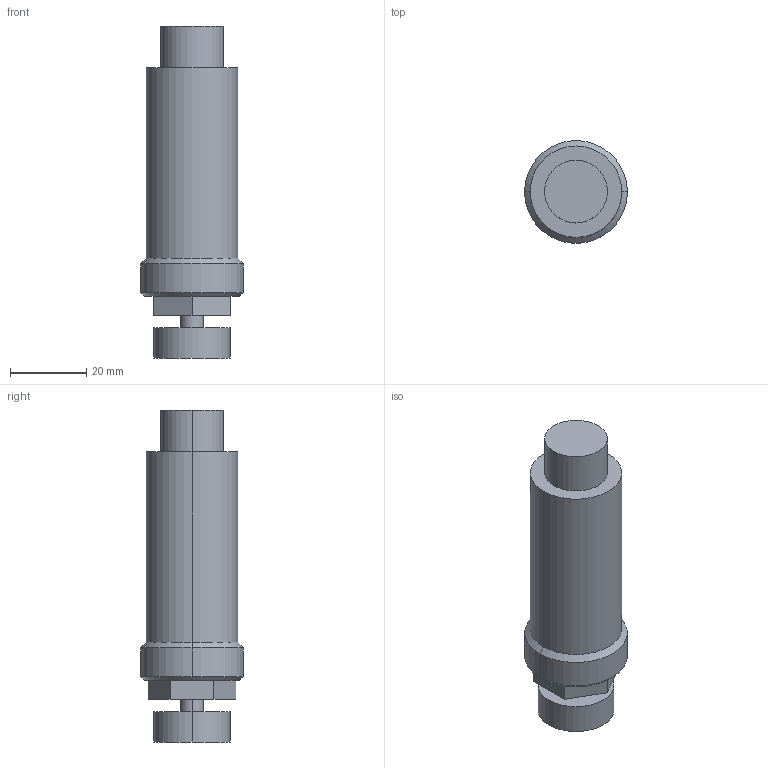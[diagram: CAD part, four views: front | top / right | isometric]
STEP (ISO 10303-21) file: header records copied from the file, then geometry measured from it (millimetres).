
FILE_DESCRIPTION (( 'STEP AP203' ), '1' );
FILE_NAME ('DIYAWEICHI.STEP', '2023-04-06T07:05:09', ( '' ), ( '' ), 'SwSTEP 2.0', 'SolidWorks 2016', '' );
FILE_SCHEMA (( 'CONFIG_CONTROL_DESIGN' ));
Length unit declared in the file: millimetre
Products named in the file (1): DIYAWEICHI
Bounding box: 27 x 27 x 87.2 mm (x, y, z)
Volume: 34899.6 mm3; surface area: 7686.2 mm2
Topology: 1 solids, 1 shells, 26 faces, 54 edges, 34 vertices
Faces by surface type: plane 12, cylinder 10, cone 4
Entity records: 769 total; most frequent: DIRECTION 130, CARTESIAN_POINT 115, ORIENTED_EDGE 108, EDGE_CURVE 54, AXIS2_PLACEMENT_3D 49, VERTEX_POINT 34, LINE 32, VECTOR 32
